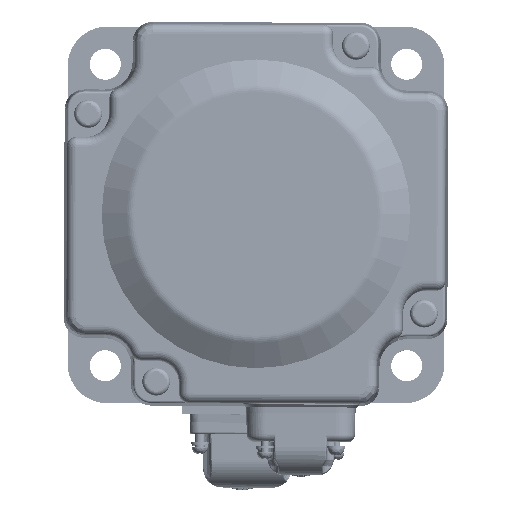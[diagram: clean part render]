
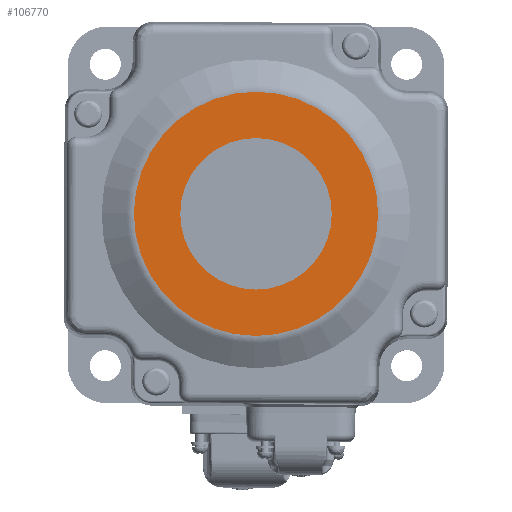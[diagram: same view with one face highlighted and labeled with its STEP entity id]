
A CAD part, top view. The second image highlights one B-rep face of the part: STEP entity #106770.
In plain terms, the highlighted planar face has unit normal (0, 0, 1).
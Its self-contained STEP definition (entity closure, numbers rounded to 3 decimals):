
#39863=CARTESIAN_POINT('',(40.025,40.025,120.169));
#39864=DIRECTION('',(0.,0.,-1.));
#39865=DIRECTION('',(-1.,0.004,0.));
#39866=AXIS2_PLACEMENT_3D('',#39863,#39864,#39865);
#39868=CARTESIAN_POINT('',(40.025,40.025,120.169));
#39869=DIRECTION('',(0.,0.,-1.));
#39870=DIRECTION('',(1.,-0.004,0.));
#39871=AXIS2_PLACEMENT_3D('',#39868,#39869,#39870);
#39873=CARTESIAN_POINT('',(40.025,40.025,120.169));
#39874=DIRECTION('',(0.,0.,1.));
#39875=DIRECTION('',(-1.,0.004,0.));
#39876=AXIS2_PLACEMENT_3D('',#39873,#39874,#39875);
#39878=CARTESIAN_POINT('',(40.025,40.025,120.169));
#39879=DIRECTION('',(0.,0.,1.));
#39880=DIRECTION('',(1.,-0.004,0.));
#39881=AXIS2_PLACEMENT_3D('',#39878,#39879,#39880);
#44795=CARTESIAN_POINT('',(14.236,40.133,120.169));
#44796=CARTESIAN_POINT('',(65.814,39.917,120.169));
#44797=VERTEX_POINT('',#44795);
#44798=VERTEX_POINT('',#44796);
#44799=CARTESIAN_POINT('',(24.025,40.092,120.169));
#44800=CARTESIAN_POINT('',(56.025,39.958,120.169));
#44801=VERTEX_POINT('',#44799);
#44802=VERTEX_POINT('',#44800);
#106754=CARTESIAN_POINT('',(40.025,40.025,
120.169));
#106755=DIRECTION('',(0.,0.,1.));
#106756=DIRECTION('',(-1.,0.004,0.));
#106757=AXIS2_PLACEMENT_3D('',#106754,#106755,#106756);
#106758=PLANE('',#106757);
#106759=ORIENTED_EDGE('',*,*,#106744,.T.);
#106761=ORIENTED_EDGE('',*,*,#106760,.T.);
#106762=EDGE_LOOP('',(#106759,#106761));
#106763=FACE_OUTER_BOUND('',#106762,.F.);
#106765=ORIENTED_EDGE('',*,*,#106764,.T.);
#106767=ORIENTED_EDGE('',*,*,#106766,.T.);
#106768=EDGE_LOOP('',(#106765,#106767));
#106769=FACE_BOUND('',#106768,.F.);
#39867=CIRCLE('',#39866,25.789);
#39872=CIRCLE('',#39871,25.789);
#39877=CIRCLE('',#39876,16.);
#39882=CIRCLE('',#39881,16.);
#106744=EDGE_CURVE('',#44797,#44798,#39867,.T.);
#106760=EDGE_CURVE('',#44798,#44797,#39872,.T.);
#106764=EDGE_CURVE('',#44801,#44802,#39877,.T.);
#106766=EDGE_CURVE('',#44802,#44801,#39882,.T.);
#106770=ADVANCED_FACE('',(#106763,#106769),#106758,.T.);
